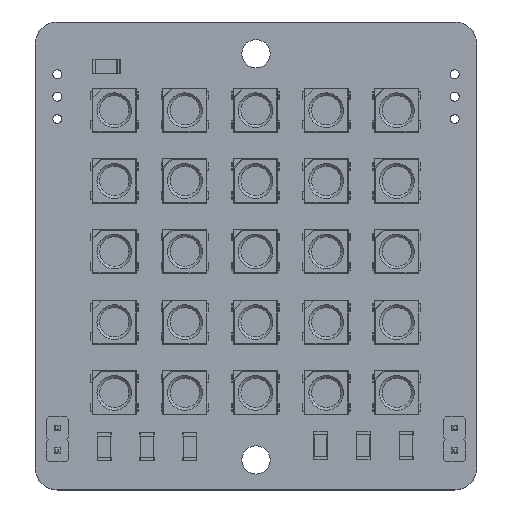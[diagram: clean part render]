
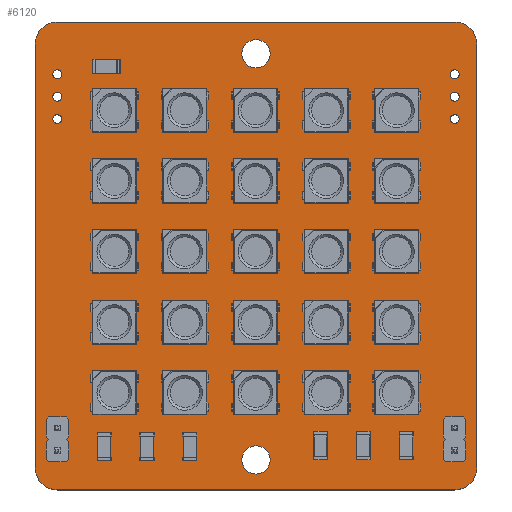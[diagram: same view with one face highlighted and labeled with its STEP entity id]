
A CAD part, top view. The second image highlights one B-rep face of the part: STEP entity #6120.
In plain terms, the highlighted planar face has unit normal (0, 0, 1).
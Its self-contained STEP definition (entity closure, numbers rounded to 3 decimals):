
#5839 = VERTEX_POINT('',#5840);
#5840 = CARTESIAN_POINT('',(195.5,-48.,1.6));
#5846 = EDGE_CURVE('',#5839,#5847,#5849,.T.);
#5847 = VERTEX_POINT('',#5848);
#5848 = CARTESIAN_POINT('',(198.,-50.5,1.6));
#5849 = CIRCLE('',#5850,2.5);
#5850 = AXIS2_PLACEMENT_3D('',#5851,#5852,#5853);
#5851 = CARTESIAN_POINT('',(195.5,-50.5,1.6));
#5852 = DIRECTION('',(0.,0.,-1.));
#5853 = DIRECTION('',(0.,1.,0.));
#5881 = VERTEX_POINT('',#5882);
#5882 = CARTESIAN_POINT('',(150.5,-48.,1.6));
#5888 = EDGE_CURVE('',#5881,#5839,#5889,.T.);
#5889 = LINE('',#5890,#5891);
#5890 = CARTESIAN_POINT('',(150.5,-48.,1.6));
#5891 = VECTOR('',#5892,1.);
#5892 = DIRECTION('',(1.,0.,0.));
#5910 = EDGE_CURVE('',#5847,#5911,#5913,.T.);
#5911 = VERTEX_POINT('',#5912);
#5912 = CARTESIAN_POINT('',(198.,-98.5,1.6));
#5913 = LINE('',#5914,#5915);
#5914 = CARTESIAN_POINT('',(198.,-50.5,1.6));
#5915 = VECTOR('',#5916,1.);
#5916 = DIRECTION('',(0.,-1.,0.));
#6120 = ADVANCED_FACE('',(#6121,#6167,#6178,#6189,#6200,#6211,#6222,
    #6233,#6244,#6255,#6266,#6277,#6288),#6299,.T.);
#6121 = FACE_BOUND('',#6122,.T.);
#6122 = EDGE_LOOP('',(#6123,#6124,#6125,#6134,#6142,#6151,#6159,#6166));
#6123 = ORIENTED_EDGE('',*,*,#5846,.F.);
#6124 = ORIENTED_EDGE('',*,*,#5888,.F.);
#6125 = ORIENTED_EDGE('',*,*,#6126,.F.);
#6126 = EDGE_CURVE('',#6127,#5881,#6129,.T.);
#6127 = VERTEX_POINT('',#6128);
#6128 = CARTESIAN_POINT('',(148.,-50.5,1.6));
#6129 = CIRCLE('',#6130,2.5);
#6130 = AXIS2_PLACEMENT_3D('',#6131,#6132,#6133);
#6131 = CARTESIAN_POINT('',(150.5,-50.5,1.6));
#6132 = DIRECTION('',(0.,0.,-1.));
#6133 = DIRECTION('',(-1.,0.,-0.));
#6134 = ORIENTED_EDGE('',*,*,#6135,.F.);
#6135 = EDGE_CURVE('',#6136,#6127,#6138,.T.);
#6136 = VERTEX_POINT('',#6137);
#6137 = CARTESIAN_POINT('',(148.,-98.5,1.6));
#6138 = LINE('',#6139,#6140);
#6139 = CARTESIAN_POINT('',(148.,-98.5,1.6));
#6140 = VECTOR('',#6141,1.);
#6141 = DIRECTION('',(0.,1.,0.));
#6142 = ORIENTED_EDGE('',*,*,#6143,.F.);
#6143 = EDGE_CURVE('',#6144,#6136,#6146,.T.);
#6144 = VERTEX_POINT('',#6145);
#6145 = CARTESIAN_POINT('',(150.5,-101.,1.6));
#6146 = CIRCLE('',#6147,2.5);
#6147 = AXIS2_PLACEMENT_3D('',#6148,#6149,#6150);
#6148 = CARTESIAN_POINT('',(150.5,-98.5,1.6));
#6149 = DIRECTION('',(0.,0.,-1.));
#6150 = DIRECTION('',(0.,-1.,0.));
#6151 = ORIENTED_EDGE('',*,*,#6152,.F.);
#6152 = EDGE_CURVE('',#6153,#6144,#6155,.T.);
#6153 = VERTEX_POINT('',#6154);
#6154 = CARTESIAN_POINT('',(195.5,-101.,1.6));
#6155 = LINE('',#6156,#6157);
#6156 = CARTESIAN_POINT('',(195.5,-101.,1.6));
#6157 = VECTOR('',#6158,1.);
#6158 = DIRECTION('',(-1.,0.,0.));
#6159 = ORIENTED_EDGE('',*,*,#6160,.F.);
#6160 = EDGE_CURVE('',#5911,#6153,#6161,.T.);
#6161 = CIRCLE('',#6162,2.5);
#6162 = AXIS2_PLACEMENT_3D('',#6163,#6164,#6165);
#6163 = CARTESIAN_POINT('',(195.5,-98.5,1.6));
#6164 = DIRECTION('',(0.,0.,-1.));
#6165 = DIRECTION('',(1.,0.,0.));
#6166 = ORIENTED_EDGE('',*,*,#5910,.F.);
#6167 = FACE_BOUND('',#6168,.T.);
#6168 = EDGE_LOOP('',(#6169));
#6169 = ORIENTED_EDGE('',*,*,#6170,.T.);
#6170 = EDGE_CURVE('',#6171,#6171,#6173,.T.);
#6171 = VERTEX_POINT('',#6172);
#6172 = CARTESIAN_POINT('',(150.5,-97.04,1.6));
#6173 = CIRCLE('',#6174,0.5);
#6174 = AXIS2_PLACEMENT_3D('',#6175,#6176,#6177);
#6175 = CARTESIAN_POINT('',(150.5,-96.54,1.6));
#6176 = DIRECTION('',(-0.,0.,-1.));
#6177 = DIRECTION('',(-0.,-1.,0.));
#6178 = FACE_BOUND('',#6179,.T.);
#6179 = EDGE_LOOP('',(#6180));
#6180 = ORIENTED_EDGE('',*,*,#6181,.T.);
#6181 = EDGE_CURVE('',#6182,#6182,#6184,.T.);
#6182 = VERTEX_POINT('',#6183);
#6183 = CARTESIAN_POINT('',(150.5,-94.5,1.6));
#6184 = CIRCLE('',#6185,0.5);
#6185 = AXIS2_PLACEMENT_3D('',#6186,#6187,#6188);
#6186 = CARTESIAN_POINT('',(150.5,-94.,1.6));
#6187 = DIRECTION('',(-0.,0.,-1.));
#6188 = DIRECTION('',(-0.,-1.,0.));
#6189 = FACE_BOUND('',#6190,.T.);
#6190 = EDGE_LOOP('',(#6191));
#6191 = ORIENTED_EDGE('',*,*,#6192,.T.);
#6192 = EDGE_CURVE('',#6193,#6193,#6195,.T.);
#6193 = VERTEX_POINT('',#6194);
#6194 = CARTESIAN_POINT('',(173.,-99.2,1.6));
#6195 = CIRCLE('',#6196,1.6);
#6196 = AXIS2_PLACEMENT_3D('',#6197,#6198,#6199);
#6197 = CARTESIAN_POINT('',(173.,-97.6,1.6));
#6198 = DIRECTION('',(-0.,0.,-1.));
#6199 = DIRECTION('',(-0.,-1.,0.));
#6200 = FACE_BOUND('',#6201,.T.);
#6201 = EDGE_LOOP('',(#6202));
#6202 = ORIENTED_EDGE('',*,*,#6203,.T.);
#6203 = EDGE_CURVE('',#6204,#6204,#6206,.T.);
#6204 = VERTEX_POINT('',#6205);
#6205 = CARTESIAN_POINT('',(195.5,-97.04,1.6));
#6206 = CIRCLE('',#6207,0.5);
#6207 = AXIS2_PLACEMENT_3D('',#6208,#6209,#6210);
#6208 = CARTESIAN_POINT('',(195.5,-96.54,1.6));
#6209 = DIRECTION('',(-0.,0.,-1.));
#6210 = DIRECTION('',(-0.,-1.,0.));
#6211 = FACE_BOUND('',#6212,.T.);
#6212 = EDGE_LOOP('',(#6213));
#6213 = ORIENTED_EDGE('',*,*,#6214,.T.);
#6214 = EDGE_CURVE('',#6215,#6215,#6217,.T.);
#6215 = VERTEX_POINT('',#6216);
#6216 = CARTESIAN_POINT('',(195.5,-94.5,1.6));
#6217 = CIRCLE('',#6218,0.5);
#6218 = AXIS2_PLACEMENT_3D('',#6219,#6220,#6221);
#6219 = CARTESIAN_POINT('',(195.5,-94.,1.6));
#6220 = DIRECTION('',(-0.,0.,-1.));
#6221 = DIRECTION('',(-0.,-1.,0.));
#6222 = FACE_BOUND('',#6223,.T.);
#6223 = EDGE_LOOP('',(#6224));
#6224 = ORIENTED_EDGE('',*,*,#6225,.T.);
#6225 = EDGE_CURVE('',#6226,#6226,#6228,.T.);
#6226 = VERTEX_POINT('',#6227);
#6227 = CARTESIAN_POINT('',(150.5,-59.5,1.6));
#6228 = CIRCLE('',#6229,0.5);
#6229 = AXIS2_PLACEMENT_3D('',#6230,#6231,#6232);
#6230 = CARTESIAN_POINT('',(150.5,-59.,1.6));
#6231 = DIRECTION('',(-0.,0.,-1.));
#6232 = DIRECTION('',(-0.,-1.,0.));
#6233 = FACE_BOUND('',#6234,.T.);
#6234 = EDGE_LOOP('',(#6235));
#6235 = ORIENTED_EDGE('',*,*,#6236,.T.);
#6236 = EDGE_CURVE('',#6237,#6237,#6239,.T.);
#6237 = VERTEX_POINT('',#6238);
#6238 = CARTESIAN_POINT('',(150.5,-56.96,1.6));
#6239 = CIRCLE('',#6240,0.5);
#6240 = AXIS2_PLACEMENT_3D('',#6241,#6242,#6243);
#6241 = CARTESIAN_POINT('',(150.5,-56.46,1.6));
#6242 = DIRECTION('',(-0.,0.,-1.));
#6243 = DIRECTION('',(-0.,-1.,0.));
#6244 = FACE_BOUND('',#6245,.T.);
#6245 = EDGE_LOOP('',(#6246));
#6246 = ORIENTED_EDGE('',*,*,#6247,.T.);
#6247 = EDGE_CURVE('',#6248,#6248,#6250,.T.);
#6248 = VERTEX_POINT('',#6249);
#6249 = CARTESIAN_POINT('',(150.5,-54.42,1.6));
#6250 = CIRCLE('',#6251,0.5);
#6251 = AXIS2_PLACEMENT_3D('',#6252,#6253,#6254);
#6252 = CARTESIAN_POINT('',(150.5,-53.92,1.6));
#6253 = DIRECTION('',(-0.,0.,-1.));
#6254 = DIRECTION('',(-0.,-1.,0.));
#6255 = FACE_BOUND('',#6256,.T.);
#6256 = EDGE_LOOP('',(#6257));
#6257 = ORIENTED_EDGE('',*,*,#6258,.T.);
#6258 = EDGE_CURVE('',#6259,#6259,#6261,.T.);
#6259 = VERTEX_POINT('',#6260);
#6260 = CARTESIAN_POINT('',(173.,-53.2,1.6));
#6261 = CIRCLE('',#6262,1.6);
#6262 = AXIS2_PLACEMENT_3D('',#6263,#6264,#6265);
#6263 = CARTESIAN_POINT('',(173.,-51.6,1.6));
#6264 = DIRECTION('',(-0.,0.,-1.));
#6265 = DIRECTION('',(-0.,-1.,0.));
#6266 = FACE_BOUND('',#6267,.T.);
#6267 = EDGE_LOOP('',(#6268));
#6268 = ORIENTED_EDGE('',*,*,#6269,.T.);
#6269 = EDGE_CURVE('',#6270,#6270,#6272,.T.);
#6270 = VERTEX_POINT('',#6271);
#6271 = CARTESIAN_POINT('',(195.5,-59.5,1.6));
#6272 = CIRCLE('',#6273,0.5);
#6273 = AXIS2_PLACEMENT_3D('',#6274,#6275,#6276);
#6274 = CARTESIAN_POINT('',(195.5,-59.,1.6));
#6275 = DIRECTION('',(-0.,0.,-1.));
#6276 = DIRECTION('',(-0.,-1.,0.));
#6277 = FACE_BOUND('',#6278,.T.);
#6278 = EDGE_LOOP('',(#6279));
#6279 = ORIENTED_EDGE('',*,*,#6280,.T.);
#6280 = EDGE_CURVE('',#6281,#6281,#6283,.T.);
#6281 = VERTEX_POINT('',#6282);
#6282 = CARTESIAN_POINT('',(195.5,-56.96,1.6));
#6283 = CIRCLE('',#6284,0.5);
#6284 = AXIS2_PLACEMENT_3D('',#6285,#6286,#6287);
#6285 = CARTESIAN_POINT('',(195.5,-56.46,1.6));
#6286 = DIRECTION('',(-0.,0.,-1.));
#6287 = DIRECTION('',(-0.,-1.,0.));
#6288 = FACE_BOUND('',#6289,.T.);
#6289 = EDGE_LOOP('',(#6290));
#6290 = ORIENTED_EDGE('',*,*,#6291,.T.);
#6291 = EDGE_CURVE('',#6292,#6292,#6294,.T.);
#6292 = VERTEX_POINT('',#6293);
#6293 = CARTESIAN_POINT('',(195.5,-54.42,1.6));
#6294 = CIRCLE('',#6295,0.5);
#6295 = AXIS2_PLACEMENT_3D('',#6296,#6297,#6298);
#6296 = CARTESIAN_POINT('',(195.5,-53.92,1.6));
#6297 = DIRECTION('',(-0.,0.,-1.));
#6298 = DIRECTION('',(-0.,-1.,0.));
#6299 = PLANE('',#6300);
#6300 = AXIS2_PLACEMENT_3D('',#6301,#6302,#6303);
#6301 = CARTESIAN_POINT('',(0.,0.,1.6));
#6302 = DIRECTION('',(0.,0.,1.));
#6303 = DIRECTION('',(1.,0.,-0.));
